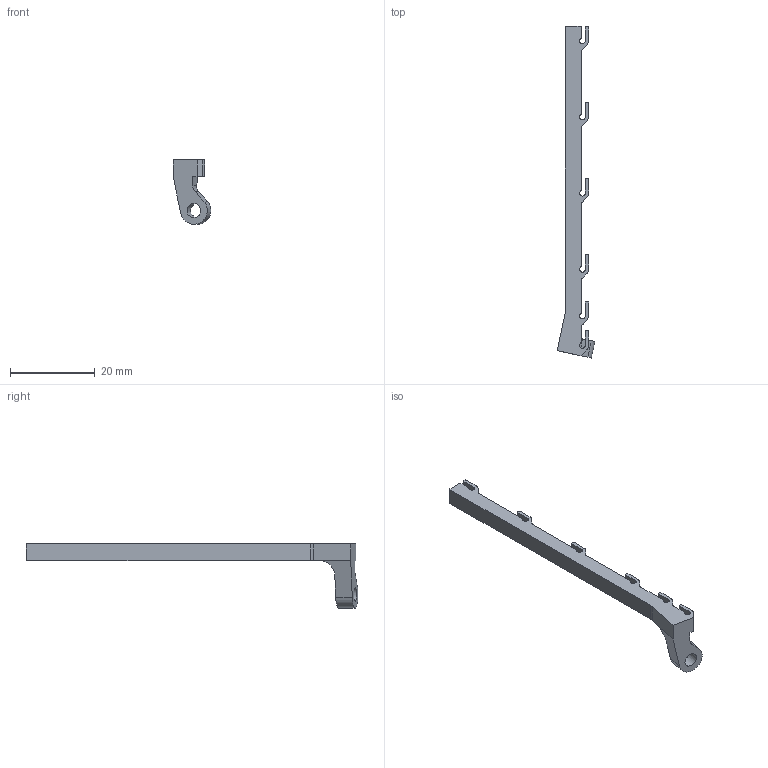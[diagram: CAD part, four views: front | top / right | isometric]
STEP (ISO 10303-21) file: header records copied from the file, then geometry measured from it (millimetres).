
FILE_DESCRIPTION(/* description */ (''),/* implementation_level */ '2;1');
FILE_NAME(/* name */ 'C:\Users\uhlma\OneDrive\Flaura\Produktentwicklung\Gehaeuse\CAD-Konstruktion\Prototyp 9\Thingiverse_Upload\Inventor\Water_Level_Sensor_Mount.stp',/* time_stamp */ '2021-07-25T11:46:27+02:00',/* author */ ('uhlma'),/* organization */ (''),/* preprocessor_version */ 'ST-DEVELOPER v18',/* originating_system */ 'Autodesk Inventor 2020',/* authorisation */ '');
FILE_SCHEMA (('AUTOMOTIVE_DESIGN { 1 0 10303 214 3 1 1 }'));
Length unit declared in the file: millimetre
Products named in the file (1): Wasserlevel_Kabelhalter_210403
Bounding box: 8.89 x 78.43 x 15.25 mm (x, y, z)
Volume: 1500.7 mm3; surface area: 1783.6 mm2
Topology: 1 solids, 1 shells, 83 faces, 242 edges, 161 vertices
Faces by surface type: cylinder 42, plane 41
Full cylindrical faces by diameter (mm): 3.3 x1
Entity records: 2826 total; most frequent: CARTESIAN_POINT 499, DIRECTION 493, ORIENTED_EDGE 484, EDGE_CURVE 242, AXIS2_PLACEMENT_3D 169, VERTEX_POINT 161, LINE 155, VECTOR 155
